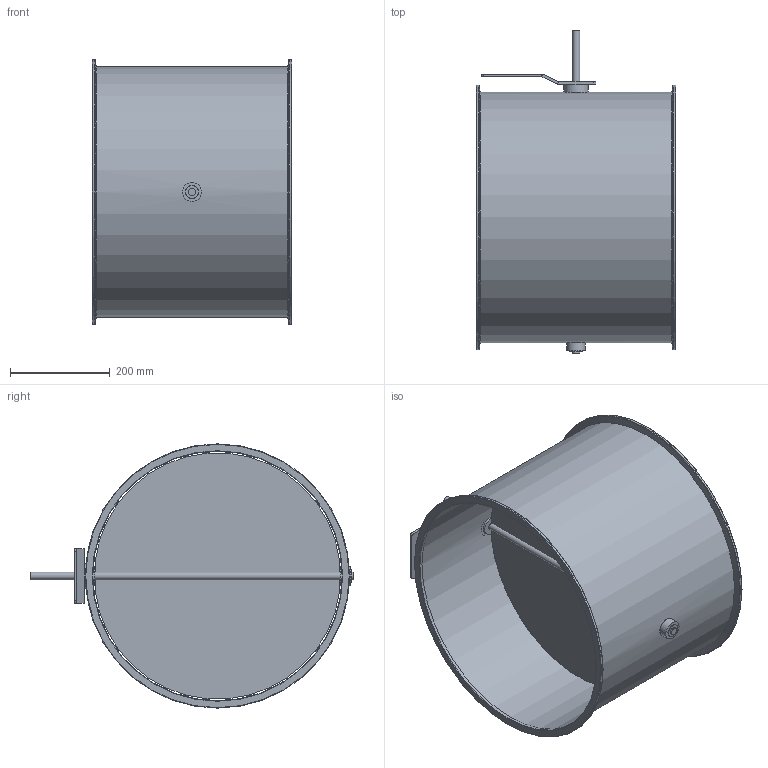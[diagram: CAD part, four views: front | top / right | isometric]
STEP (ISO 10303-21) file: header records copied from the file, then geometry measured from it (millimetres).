
FILE_DESCRIPTION(/* description */ (''),/* implementation_level */ '2;1');
FILE_NAME(/* name */ 'EA110-80B__500_L400_Belimo_Typen_NF_SF.stp',/* time_stamp */ '2017-12-07T10:40:51+01:00',/* author */ (''),/* organization */ (''),/* preprocessor_version */ 'ST-DEVELOPER v11',/* originating_system */ 'SIEMENS UGS NX 6.0',/* authorisation */ '');
FILE_SCHEMA (('CONFIG_CONTROL_DESIGN'));
Length unit declared in the file: millimetre
Products named in the file (1): gars5544kx7t
Bounding box: 400 x 646 x 530 mm (x, y, z)
Volume: 1464711.8 mm3; surface area: 1833712.3 mm2
Topology: 8 solids, 8 shells, 78 faces, 164 edges, 104 vertices
Faces by surface type: plane 36, cylinder 34, torus 6, cone 2
Full cylindrical faces by diameter (mm): 6.1 x6, 15 x3, 25 x3, 25.85 x2, 26 x2, 38 x3, 49 x1, 500 x1, 502 x1, 530 x2
Entity records: 2028 total; most frequent: CARTESIAN_POINT 363, DIRECTION 346, ORIENTED_EDGE 244, AXIS2_PLACEMENT_3D 149, EDGE_LOOP 140, EDGE_CURVE 122, FACE_BOUND 110, VERTEX_POINT 94
